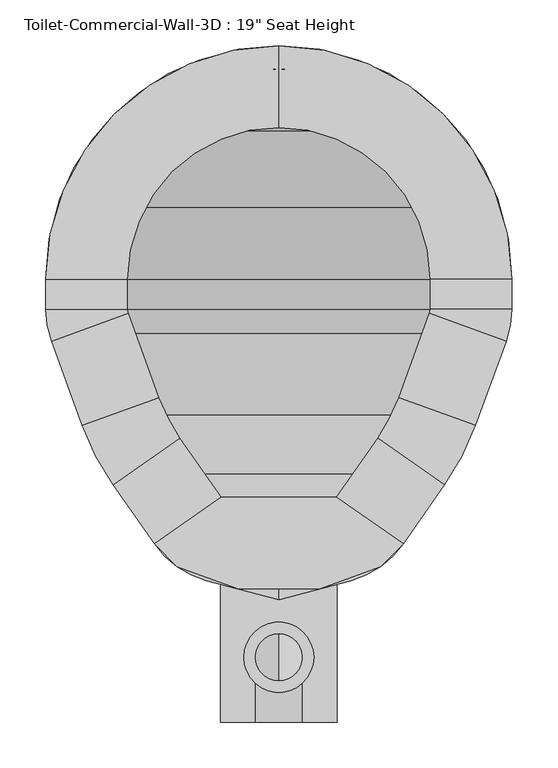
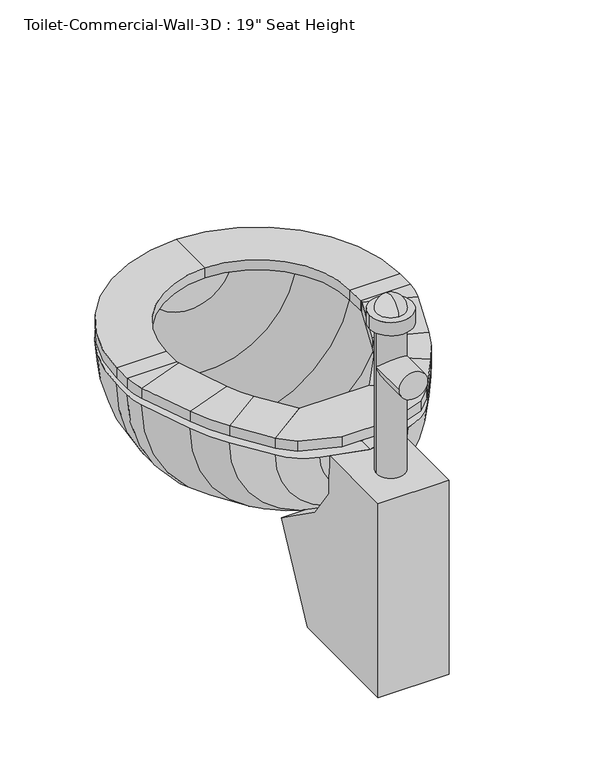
"""IFC4 building model written with IfcOpenShell, lengths in millimetres: flow terminal geometry."""

from ifc_helpers import new_model, si_unit, point, frame, frame_2d, origin, place, context, project, spatial, polyline, circle_curve, ellipse_curve, trimmed, segment, composite_curve, outline, extrude, source, transform, mapped, element, save
from ifc_brep_helpers import plane_surface, cylinder_surface, revolved_surface, advanced_brep


def flow_terminal_070f706b(model_context):
    return source(origin(), model_context, "Body", "SolidModel", [
        extrude(outline(polyline([(467.7541169, 397.4347495), (540.5767337, 346.4438043), (515.6262519, 321.4933226), (449.563909, 297.4485961), (360.2423986, 297.4485961), (294.1800557, 321.4933226), (269.229574, 346.4438043), (342.0521907, 397.4347495), (467.7541169, 397.4347495)])), frame((0.0, 0.0, 457.2), z_axis=(0.0, 0.0, 1.0), x_axis=(1.0, 0.0, 0.0)), (0.0, 0.0, 1.0), 19.05),
        advanced_brep(
        [(467.7541169, 397.4347495, 457.2), (540.5767337, 346.4438043, 457.2), (540.5767337, 346.4438043, 476.25), (467.7541169, 397.4347495, 476.25), (512.8583992, 461.8503403, 457.2), (585.6810159, 410.8593951, 457.2), (585.6810159, 410.8593951, 476.25), (512.8583992, 461.8503403, 476.25), (619.360053, 475.5562234, 457.2), (535.821379, 505.9618141, 457.2), (619.360053, 475.5562234, 476.25), (535.821379, 505.9618141, 476.25), (569.2372501, 597.7711654, 457.2), (652.7759241, 567.3655747, 457.2), (652.7759241, 567.3655747, 476.25), (569.2372501, 597.7711654, 476.25), (658.9031538, 602.1148212, 457.2), (570.0031538, 602.1148212, 457.2), (658.9031538, 602.1148212, 476.25), (570.0031538, 602.1148212, 476.25), (570.0031538, 635.0, 457.2), (658.9031538, 635.0, 457.2), (658.9031538, 635.0, 476.25), (570.0031538, 635.0, 476.25), (404.9031538, 889.0, 457.2), (404.9031538, 800.1, 457.2), (404.9031538, 889.0, 476.25), (404.9031538, 800.1, 476.25), (150.9031538, 635.0, 457.2), (239.8031538, 635.0, 457.2), (150.9031538, 635.0, 476.25), (239.8031538, 635.0, 476.25), (239.8031538, 602.1148212, 457.2), (150.9031538, 602.1148212, 457.2), (150.9031538, 602.1148212, 476.25), (239.8031538, 602.1148212, 476.25), (157.0303835, 567.3655747, 457.2), (240.5690575, 597.7711654, 457.2), (157.0303835, 567.3655747, 476.25), (240.5690575, 597.7711654, 476.25), (273.9849286, 505.9618141, 457.2), (190.4462546, 475.5562234, 457.2), (190.4462546, 475.5562234, 476.25), (273.9849286, 505.9618141, 476.25), (224.1252917, 410.8593951, 457.2), (296.9479084, 461.8503403, 457.2), (224.1252917, 410.8593951, 476.25), (296.9479084, 461.8503403, 476.25), (342.0521907, 397.4347495, 457.2), (342.0521907, 397.4347495, 476.25), (269.229574, 346.4438043, 476.25), (269.229574, 346.4438043, 457.2)],
        [
            (0, 1),
            (1, 2),
            (2, 3),
            (3, 0),
            (0, 4),
            (4, 5),
            (5, 1),
            (5, 6),
            (6, 2),
            (6, 7),
            (7, 3),
            (7, 4),
            (8, 5, circle_curve(frame((356.8099347, 571.1166514, 457.2), z_axis=(0.0, 0.0, -1.0), x_axis=(0.81915204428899, -0.5735764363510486, 0.0)), 279.4)),
            (4, 9, circle_curve(frame((356.8099347, 571.1166514, 457.2), z_axis=(0.0, 0.0, 1.0), x_axis=(0.81915204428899, -0.5735764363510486, 0.0)), 190.5)),
            (9, 8),
            (10, 6, circle_curve(frame((356.8099347, 571.1166514, 476.25), z_axis=(0.0, 0.0, -1.0), x_axis=(0.81915204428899, -0.5735764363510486, 0.0)), 279.4)),
            (8, 10),
            (11, 7, circle_curve(frame((356.8099347, 571.1166514, 476.25), z_axis=(0.0, 0.0, -1.0), x_axis=(0.81915204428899, -0.5735764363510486, 0.0)), 190.5)),
            (10, 11),
            (11, 9),
            (9, 12),
            (12, 13),
            (13, 8),
            (13, 14),
            (14, 10),
            (14, 15),
            (15, 11),
            (15, 12),
            (16, 13, circle_curve(frame((557.3031538, 602.1148212, 457.2), z_axis=(0.0, 0.0, -1.0), x_axis=(0.9396926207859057, -0.3420201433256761, 0.0)), 101.6)),
            (12, 17, circle_curve(frame((557.3031538, 602.1148212, 457.2), z_axis=(0.0, 0.0, 1.0), x_axis=(0.9396926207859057, -0.3420201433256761, 0.0)), 12.7)),
            (17, 16),
            (18, 14, circle_curve(frame((557.3031538, 602.1148212, 476.25), z_axis=(0.0, 0.0, -1.0), x_axis=(0.9396926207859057, -0.3420201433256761, 0.0)), 101.6)),
            (16, 18),
            (19, 15, circle_curve(frame((557.3031538, 602.1148212, 476.25), z_axis=(0.0, 0.0, -1.0), x_axis=(0.9396926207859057, -0.3420201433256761, 0.0)), 12.7)),
            (18, 19),
            (19, 17),
            (17, 20),
            (20, 21),
            (21, 16),
            (21, 22),
            (22, 18),
            (22, 23),
            (23, 19),
            (23, 20),
            (24, 21, circle_curve(frame((404.9031538, 635.0, 457.2), z_axis=(0.0, 0.0, -1.0), x_axis=(1.0, 0.0, 0.0)), 254.0)),
            (20, 25, circle_curve(frame((404.9031538, 635.0, 457.2), z_axis=(0.0, 0.0, 1.0), x_axis=(1.0, 0.0, 0.0)), 165.1)),
            (25, 24),
            (26, 22, circle_curve(frame((404.9031538, 635.0, 476.25), z_axis=(0.0, 0.0, -1.0), x_axis=(1.0, 0.0, 0.0)), 254.0)),
            (24, 26),
            (27, 23, circle_curve(frame((404.9031538, 635.0, 476.25), z_axis=(0.0, 0.0, -1.0), x_axis=(1.0, 0.0, 0.0)), 165.1)),
            (26, 27),
            (27, 25),
            (28, 24, circle_curve(frame((404.9031538, 635.0, 457.2), z_axis=(0.0, 0.0, -1.0), x_axis=(0.0, 1.0, 0.0)), 254.0)),
            (25, 29, circle_curve(frame((404.9031538, 635.0, 457.2), z_axis=(0.0, 0.0, 1.0), x_axis=(0.0, 1.0, 0.0)), 165.1)),
            (29, 28),
            (30, 26, circle_curve(frame((404.9031538, 635.0, 476.25), z_axis=(0.0, 0.0, -1.0), x_axis=(0.0, 1.0, 0.0)), 254.0)),
            (28, 30),
            (31, 27, circle_curve(frame((404.9031538, 635.0, 476.25), z_axis=(0.0, 0.0, -1.0), x_axis=(0.0, 1.0, 0.0)), 165.1)),
            (30, 31),
            (31, 29),
            (29, 32),
            (32, 33),
            (33, 28),
            (33, 34),
            (34, 30),
            (34, 35),
            (35, 31),
            (35, 32),
            (36, 33, circle_curve(frame((252.5031538, 602.1148212, 457.2), z_axis=(0.0, 0.0, -1.0), x_axis=(-1.0, 0.0, 0.0)), 101.6)),
            (32, 37, circle_curve(frame((252.5031538, 602.1148212, 457.2), z_axis=(0.0, 0.0, 1.0), x_axis=(-1.0, 0.0, 0.0)), 12.7)),
            (37, 36),
            (38, 34, circle_curve(frame((252.5031538, 602.1148212, 476.25), z_axis=(0.0, 0.0, -1.0), x_axis=(-1.0, 0.0, 0.0)), 101.6)),
            (36, 38),
            (39, 35, circle_curve(frame((252.5031538, 602.1148212, 476.25), z_axis=(0.0, 0.0, -1.0), x_axis=(-1.0, 0.0, 0.0)), 12.7)),
            (38, 39),
            (39, 37),
            (37, 40),
            (40, 41),
            (41, 36),
            (41, 42),
            (42, 38),
            (42, 43),
            (43, 39),
            (43, 40),
            (44, 41, circle_curve(frame((452.9963729, 571.1166514, 457.2), z_axis=(0.0, 0.0, -1.0), x_axis=(-0.939692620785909, -0.3420201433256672, 0.0)), 279.4)),
            (40, 45, circle_curve(frame((452.9963729, 571.1166514, 457.2), z_axis=(0.0, 0.0, 1.0), x_axis=(-0.939692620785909, -0.3420201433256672, 0.0)), 190.5)),
            (45, 44),
            (46, 42, circle_curve(frame((452.9963729, 571.1166514, 476.25), z_axis=(0.0, 0.0, -1.0), x_axis=(-0.939692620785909, -0.3420201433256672, 0.0)), 279.4)),
            (44, 46),
            (47, 43, circle_curve(frame((452.9963729, 571.1166514, 476.25), z_axis=(0.0, 0.0, -1.0), x_axis=(-0.939692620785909, -0.3420201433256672, 0.0)), 190.5)),
            (46, 47),
            (47, 45),
            (48, 49),
            (49, 50),
            (50, 51),
            (51, 48),
            (45, 48),
            (51, 44),
            (50, 46),
            (49, 47),
        ],
        [
            plane_surface(frame((540.5767337, 346.4438043, 538.8995365), z_axis=(-0.5735764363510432, -0.8191520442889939, 0.0), x_axis=(0.8191520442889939, -0.5735764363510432, 0.0))),
            plane_surface(frame((467.7541169, 397.4347495, 457.2), z_axis=(0.0, 0.0, -1.0), x_axis=(0.5735764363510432, 0.8191520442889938, 0.0))),
            plane_surface(frame((540.5767337, 346.4438043, 457.2), z_axis=(0.8191520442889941, -0.5735764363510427, 0.0), x_axis=(0.5735764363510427, 0.8191520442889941, 0.0))),
            plane_surface(frame((540.5767337, 346.4438043, 476.25), z_axis=(0.0, 0.0, 1.0), x_axis=(0.5735764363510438, 0.8191520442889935, 0.0))),
            plane_surface(frame((467.7541169, 397.4347495, 476.25), z_axis=(-0.8191520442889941, 0.5735764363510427, 0.0), x_axis=(0.5735764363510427, 0.8191520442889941, 0.0))),
            plane_surface(frame((356.8099347, 571.1166514, 457.2), z_axis=(0.0, 0.0, -1.0), x_axis=(0.81915204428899, -0.5735764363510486, 0.0))),
            cylinder_surface(frame((356.8099347, 571.1166514, 444.5), z_axis=(0.0, 0.0, 1.0), x_axis=(0.81915204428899, -0.5735764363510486, 0.0)), 279.4),
            plane_surface(frame((356.8099347, 571.1166514, 476.25), z_axis=(0.0, 0.0, 1.0), x_axis=(0.81915204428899, -0.5735764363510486, 0.0))),
            revolved_surface(polyline([(512.8583991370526, 461.8503402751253, 476.25), (512.8583991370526, 461.8503402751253, 457.2)]), (356.8099347, 571.1166514, 444.5), (0.0, 0.0, 1.0)),
            plane_surface(frame((535.821379, 505.9618141, 457.2), z_axis=(0.0, 0.0, -1.0000000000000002), x_axis=(0.3420201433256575, 0.9396926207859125, 0.0))),
            plane_surface(frame((619.360053, 475.5562234, 457.2), z_axis=(0.9396926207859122, -0.34202014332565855, 0.0), x_axis=(0.34202014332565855, 0.9396926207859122, 0.0))),
            plane_surface(frame((619.360053, 475.5562234, 476.25), z_axis=(0.0, 0.0, 1.0000000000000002), x_axis=(0.34202014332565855, 0.9396926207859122, 0.0))),
            plane_surface(frame((535.821379, 505.9618141, 476.25), z_axis=(-0.9396926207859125, 0.3420201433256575, 0.0), x_axis=(0.3420201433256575, 0.9396926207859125, 0.0))),
            plane_surface(frame((557.3031538, 602.1148212, 457.2), z_axis=(0.0, 0.0, -1.0000000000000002), x_axis=(0.9396926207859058, -0.34202014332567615, 0.0))),
            cylinder_surface(frame((557.3031538, 602.1148212, 444.5), z_axis=(0.0, 0.0, 1.0), x_axis=(0.9396926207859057, -0.3420201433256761, 0.0)), 101.6),
            plane_surface(frame((557.3031538, 602.1148212, 476.25), z_axis=(0.0, 0.0, 1.0000000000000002), x_axis=(0.9396926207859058, -0.34202014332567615, 0.0))),
            revolved_surface(polyline([(569.237250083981, 597.7711653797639, 476.25), (569.237250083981, 597.7711653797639, 457.2)]), (557.3031538, 602.1148212, 444.5), (0.0, 0.0, 1.0)),
            plane_surface(frame((570.0031538, 602.1148212, 457.2), z_axis=(0.0, 0.0, -1.0), x_axis=(0.0, 1.0, 0.0))),
            plane_surface(frame((658.9031538, 602.1148212, 457.2), z_axis=(1.0, 0.0, 0.0), x_axis=(0.0, 1.0, 0.0))),
            plane_surface(frame((658.9031538, 602.1148212, 476.25), z_axis=(0.0, 0.0, 1.0), x_axis=(0.0, 1.0, 0.0))),
            plane_surface(frame((570.0031538, 602.1148212, 476.25), z_axis=(-1.0, 0.0, 0.0), x_axis=(0.0, 1.0, 0.0))),
            plane_surface(frame((404.9031538, 635.0, 457.2), z_axis=(0.0, 0.0, -1.0), x_axis=(1.0, 0.0, 0.0))),
            cylinder_surface(frame((404.9031538, 635.0, 444.5), z_axis=(0.0, 0.0, 1.0), x_axis=(1.0, 0.0, 0.0)), 254.0),
            plane_surface(frame((404.9031538, 635.0, 476.25), z_axis=(0.0, 0.0, 1.0), x_axis=(1.0, 0.0, 0.0))),
            revolved_surface(polyline([(570.0031538, 635.0, 476.25), (570.0031538, 635.0, 457.2)]), (404.9031538, 635.0, 444.5), (0.0, 0.0, 1.0)),
            plane_surface(frame((404.9031538, 635.0, 457.2), z_axis=(0.0, 0.0, -1.0), x_axis=(0.0, 1.0, 0.0))),
            cylinder_surface(frame((404.9031538, 635.0, 444.5), z_axis=(0.0, 0.0, 1.0), x_axis=(0.0, 1.0, 0.0)), 254.0),
            plane_surface(frame((404.9031538, 635.0, 476.25), z_axis=(0.0, 0.0, 1.0), x_axis=(0.0, 1.0, 0.0))),
            revolved_surface(polyline([(404.9031538, 800.1, 476.25), (404.9031538, 800.1, 457.2)]), (404.9031538, 635.0, 444.5), (0.0, 0.0, 1.0)),
            plane_surface(frame((239.8031538, 635.0, 457.2), z_axis=(0.0, 0.0, -1.0), x_axis=(0.0, -1.0, 0.0))),
            plane_surface(frame((150.9031538, 635.0, 457.2), z_axis=(-1.0, 0.0, 0.0), x_axis=(0.0, -1.0, 0.0))),
            plane_surface(frame((150.9031538, 635.0, 476.25), z_axis=(0.0, 0.0, 1.0), x_axis=(0.0, -1.0, 0.0))),
            plane_surface(frame((239.8031538, 635.0, 476.25), z_axis=(1.0, 0.0, 0.0), x_axis=(0.0, -1.0, 0.0))),
            plane_surface(frame((252.5031538, 602.1148212, 457.2), z_axis=(0.0, 0.0, -1.0), x_axis=(-1.0, 0.0, 0.0))),
            cylinder_surface(frame((252.5031538, 602.1148212, 444.5), z_axis=(0.0, 0.0, 1.0), x_axis=(-1.0, 0.0, 0.0)), 101.6),
            plane_surface(frame((252.5031538, 602.1148212, 476.25), z_axis=(0.0, 0.0, 1.0), x_axis=(-1.0, 0.0, 0.0))),
            revolved_surface(polyline([(239.80315380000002, 602.1148212, 476.25), (239.80315380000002, 602.1148212, 457.2)]), (252.5031538, 602.1148212, 444.5), (0.0, 0.0, 1.0)),
            plane_surface(frame((240.5690575, 597.7711654, 457.2), z_axis=(0.0, 0.0, -1.0000000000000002), x_axis=(0.3420201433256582, -0.9396926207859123, 0.0))),
            plane_surface(frame((157.0303835, 567.3655747, 457.2), z_axis=(-0.9396926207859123, -0.3420201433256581, 0.0), x_axis=(0.3420201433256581, -0.9396926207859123, 0.0))),
            plane_surface(frame((157.0303835, 567.3655747, 476.25), z_axis=(0.0, 0.0, 1.0000000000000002), x_axis=(0.3420201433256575, -0.9396926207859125, 0.0))),
            plane_surface(frame((240.5690575, 597.7711654, 476.25), z_axis=(0.9396926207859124, 0.3420201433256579, 0.0), x_axis=(0.3420201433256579, -0.9396926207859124, 0.0))),
            plane_surface(frame((452.9963729, 571.1166514, 457.2), z_axis=(0.0, 0.0, -1.0), x_axis=(-0.939692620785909, -0.3420201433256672, 0.0))),
            cylinder_surface(frame((452.9963729, 571.1166514, 444.5), z_axis=(0.0, 0.0, 1.0), x_axis=(-0.939692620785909, -0.3420201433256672, 0.0)), 279.4),
            plane_surface(frame((452.9963729, 571.1166514, 476.25), z_axis=(0.0, 0.0, 1.0), x_axis=(-0.939692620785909, -0.3420201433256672, 0.0))),
            revolved_surface(polyline([(273.98492864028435, 505.96181409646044, 476.25), (273.98492864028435, 505.96181409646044, 457.2)]), (452.9963729, 571.1166514, 444.5), (0.0, 0.0, 1.0)),
            plane_surface(frame((269.229574, 346.4438043, 350.1004635), z_axis=(0.5735764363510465, -0.8191520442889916, 0.0), x_axis=(0.8191520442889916, 0.5735764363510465, 0.0))),
            plane_surface(frame((296.9479084, 461.8503403, 457.2), z_axis=(0.0, 0.0, -1.0), x_axis=(0.5735764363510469, -0.8191520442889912, 0.0))),
            plane_surface(frame((224.1252917, 410.8593951, 457.2), z_axis=(-0.8191520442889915, -0.5735764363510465, 0.0), x_axis=(0.5735764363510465, -0.8191520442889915, 0.0))),
            plane_surface(frame((224.1252917, 410.8593951, 476.25), z_axis=(0.0, 0.0, 1.0000000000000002), x_axis=(0.5735764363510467, -0.8191520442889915, 0.0))),
            plane_surface(frame((296.9479084, 461.8503403, 476.25), z_axis=(0.8191520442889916, 0.5735764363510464, 0.0), x_axis=(0.5735764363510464, -0.8191520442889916, 0.0))),
        ],
        [
            (0, [[1, 2, 3, 4]]),
            (1, [[-1, 5, 6, 7]]),
            (2, [[-2, -7, 8, 9]]),
            (3, [[-3, -9, 10, 11]]),
            (4, [[-4, -11, 12, -5]]),
            (5, [[13, -6, 14, 15]]),
            (6, [[16, -8, -13, 17]]),
            (7, [[18, -10, -16, 19]]),
            (8, [[-14, -12, -18, 20]]),
            (9, [[-15, 21, 22, 23]]),
            (10, [[-17, -23, 24, 25]]),
            (11, [[-19, -25, 26, 27]]),
            (12, [[-20, -27, 28, -21]]),
            (13, [[29, -22, 30, 31]]),
            (14, [[32, -24, -29, 33]]),
            (15, [[34, -26, -32, 35]]),
            (16, [[-30, -28, -34, 36]]),
            (17, [[-31, 37, 38, 39]]),
            (18, [[-33, -39, 40, 41]]),
            (19, [[-35, -41, 42, 43]]),
            (20, [[-36, -43, 44, -37]]),
            (21, [[45, -38, 46, 47]]),
            (22, [[48, -40, -45, 49]]),
            (23, [[50, -42, -48, 51]]),
            (24, [[-46, -44, -50, 52]]),
            (25, [[53, -47, 54, 55]]),
            (26, [[56, -49, -53, 57]]),
            (27, [[58, -51, -56, 59]]),
            (28, [[-54, -52, -58, 60]]),
            (29, [[-55, 61, 62, 63]]),
            (30, [[-57, -63, 64, 65]]),
            (31, [[-59, -65, 66, 67]]),
            (32, [[-60, -67, 68, -61]]),
            (33, [[69, -62, 70, 71]]),
            (34, [[72, -64, -69, 73]]),
            (35, [[74, -66, -72, 75]]),
            (36, [[-70, -68, -74, 76]]),
            (37, [[-71, 77, 78, 79]]),
            (38, [[-73, -79, 80, 81]]),
            (39, [[-75, -81, 82, 83]]),
            (40, [[-76, -83, 84, -77]]),
            (41, [[85, -78, 86, 87]]),
            (42, [[88, -80, -85, 89]]),
            (43, [[90, -82, -88, 91]]),
            (44, [[-86, -84, -90, 92]]),
            (45, [[93, 94, 95, 96]]),
            (46, [[-87, 97, -96, 98]]),
            (47, [[-89, -98, -95, 99]]),
            (48, [[-91, -99, -94, 100]]),
            (49, [[-92, -100, -93, -97]]),
        ],
    ),
        advanced_brep(
        [(491.7762702, 873.6819257, 444.5), (404.9031538, 889.0, 444.5), (404.9031538, 863.6, 444.5), (483.0889586, 849.8137331, 444.5), (566.547764, 796.6446102, 444.5), (619.7168869, 713.1858048, 444.5), (633.5031538, 635.0, 444.5), (633.5031538, 602.1148212, 444.5), (628.9077315, 576.0528863, 444.5), (596.6355667, 487.3858422, 444.5), (562.9565296, 422.6890139, 444.5), (525.0728964, 368.5855786, 444.5), (468.1430637, 328.7228806, 444.5), (404.9031538, 311.7777978, 444.5), (404.9031538, 285.4817829, 444.5), (483.6469009, 306.5811063, 444.5), (540.5767337, 346.4438043, 444.5), (585.6810159, 410.8593951, 444.5), (619.360053, 475.5562234, 444.5), (652.7759241, 567.3655747, 444.5), (658.9031538, 602.1148212, 444.5), (658.9031538, 635.0, 444.5), (643.5850795, 721.8731164, 444.5), (584.5082762, 814.6051224, 444.5), (318.0300374, 873.6819257, 444.5), (225.2980314, 814.6051224, 444.5), (166.2212281, 721.8731164, 444.5), (150.9031538, 635.0, 444.5), (150.9031538, 602.1148212, 444.5), (157.0303835, 567.3655747, 444.5), (190.4462546, 475.5562234, 444.5), (224.1252917, 410.8593951, 444.5), (269.229574, 346.4438043, 444.5), (326.1594067, 306.5811063, 444.5), (341.663244, 328.7228806, 444.5), (284.7334112, 368.5855786, 444.5), (246.849778, 422.6890139, 444.5), (213.1707409, 487.3858422, 444.5), (180.8985761, 576.0528863, 444.5), (176.3031538, 602.1148212, 444.5), (176.3031538, 635.0, 444.5), (190.0894207, 713.1858048, 444.5), (243.2585436, 796.6446102, 444.5), (326.7173491, 849.8137331, 444.5)],
        [
            (0, 1, circle_curve(frame((404.9031538, 635.0, 444.5), z_axis=(0.0, 0.0, 1.0), x_axis=(1.0, 0.0, 0.0)), 254.0)),
            (1, 2),
            (2, 3, circle_curve(frame((404.9031538, 635.0, 444.5), z_axis=(0.0, 0.0, -1.0), x_axis=(1.0, 0.0, 0.0)), 228.6)),
            (3, 4, circle_curve(frame((404.9031538, 635.0, 444.5), z_axis=(0.0, 0.0, -1.0), x_axis=(1.0, 0.0, 0.0)), 228.6)),
            (4, 5, circle_curve(frame((404.9031538, 635.0, 444.5), z_axis=(0.0, 0.0, -1.0), x_axis=(1.0, 0.0, 0.0)), 228.6)),
            (5, 6, circle_curve(frame((404.9031538, 635.0, 444.5), z_axis=(0.0, 0.0, -1.0), x_axis=(1.0, 0.0, 0.0)), 228.6)),
            (6, 7),
            (7, 8, circle_curve(frame((557.3031538, 602.1148212, 444.5), z_axis=(0.0, 0.0, -1.0), x_axis=(1.0, 0.0, 0.0)), 76.2)),
            (8, 9),
            (9, 10, circle_curve(frame((334.0854485, 582.9462703, 444.5), z_axis=(0.0, 0.0, -1.0), x_axis=(1.0, 0.0, 0.0)), 279.4)),
            (10, 11),
            (11, 12, circle_curve(frame((441.8470487, 426.8609446, 444.5), z_axis=(0.0, 0.0, -1.0), x_axis=(1.0, 0.0, 0.0)), 101.6)),
            (12, 13),
            (13, 14),
            (14, 15),
            (15, 16, circle_curve(frame((457.350886, 404.7191703, 444.5), z_axis=(0.0, 0.0, 1.0), x_axis=(1.0, 0.0, 0.0)), 101.6)),
            (16, 17),
            (17, 18, circle_curve(frame((356.8099347, 571.1166514, 444.5), z_axis=(0.0, 0.0, 1.0), x_axis=(1.0, 0.0, 0.0)), 279.4)),
            (18, 19),
            (19, 20, circle_curve(frame((557.3031538, 602.1148212, 444.5), z_axis=(0.0, 0.0, 1.0), x_axis=(1.0, 0.0, 0.0)), 101.6)),
            (20, 21),
            (21, 22, circle_curve(frame((404.9031538, 635.0, 444.5), z_axis=(0.0, 0.0, 1.0), x_axis=(1.0, 0.0, 0.0)), 254.0)),
            (22, 23, circle_curve(frame((404.9031538, 635.0, 444.5), z_axis=(0.0, 0.0, 1.0), x_axis=(1.0, 0.0, 0.0)), 254.0)),
            (23, 0, circle_curve(frame((404.9031538, 635.0, 444.5), z_axis=(0.0, 0.0, 1.0), x_axis=(1.0, 0.0, 0.0)), 254.0)),
            (24, 25, circle_curve(frame((404.9031538, 635.0, 444.5), z_axis=(0.0, 0.0, 1.0), x_axis=(-1.0, 0.0, 0.0)), 254.0)),
            (25, 26, circle_curve(frame((404.9031538, 635.0, 444.5), z_axis=(0.0, 0.0, 1.0), x_axis=(-1.0, 0.0, 0.0)), 254.0)),
            (26, 27, circle_curve(frame((404.9031538, 635.0, 444.5), z_axis=(0.0, 0.0, 1.0), x_axis=(-1.0, 0.0, 0.0)), 254.0)),
            (27, 28),
            (28, 29, circle_curve(frame((252.5031538, 602.1148212, 444.5), z_axis=(0.0, 0.0, 1.0), x_axis=(-1.0, 0.0, 0.0)), 101.6)),
            (29, 30),
            (30, 31, circle_curve(frame((452.9963729, 571.1166514, 444.5), z_axis=(0.0, 0.0, 1.0), x_axis=(-1.0, 0.0, 0.0)), 279.4)),
            (31, 32),
            (32, 33, circle_curve(frame((352.4554217, 404.7191703, 444.5), z_axis=(0.0, 0.0, 1.0), x_axis=(-1.0, 0.0, 0.0)), 101.6)),
            (33, 14),
            (13, 34),
            (34, 35, circle_curve(frame((367.9592589, 426.8609446, 444.5), z_axis=(0.0, 0.0, -1.0), x_axis=(-1.0, 0.0, 0.0)), 101.6)),
            (35, 36),
            (36, 37, circle_curve(frame((475.7208592, 582.9462703, 444.5), z_axis=(0.0, 0.0, -1.0), x_axis=(-1.0, 0.0, 0.0)), 279.4)),
            (37, 38),
            (38, 39, circle_curve(frame((252.5031538, 602.1148212, 444.5), z_axis=(0.0, 0.0, -1.0), x_axis=(-1.0, 0.0, 0.0)), 76.2)),
            (39, 40),
            (40, 41, circle_curve(frame((404.9031538, 635.0, 444.5), z_axis=(0.0, 0.0, -1.0), x_axis=(-1.0, 0.0, 0.0)), 228.6)),
            (41, 42, circle_curve(frame((404.9031538, 635.0, 444.5), z_axis=(0.0, 0.0, -1.0), x_axis=(-1.0, 0.0, 0.0)), 228.6)),
            (42, 43, circle_curve(frame((404.9031538, 635.0, 444.5), z_axis=(0.0, 0.0, -1.0), x_axis=(-1.0, 0.0, 0.0)), 228.6)),
            (43, 2, circle_curve(frame((404.9031538, 635.0, 444.5), z_axis=(0.0, 0.0, -1.0), x_axis=(-1.0, 0.0, 0.0)), 228.6)),
            (1, 24, circle_curve(frame((404.9031538, 635.0, 444.5), z_axis=(0.0, 0.0, 1.0), x_axis=(-1.0, 0.0, 0.0)), 254.0)),
            (0, 24, circle_curve(frame((404.9031538, 873.6819257, 444.5), z_axis=(0.0, 1.0, 0.0), x_axis=(1.0, 0.0, 0.0)), 86.8731164)),
            (43, 3, circle_curve(frame((404.9031538, 849.8137331, 444.5), z_axis=(0.0, -1.0, 0.0), x_axis=(1.0, 0.0, 0.0)), 78.1858048)),
            (42, 4, circle_curve(frame((404.9031538, 796.6446102, 444.5), z_axis=(0.0, -1.0, 0.0), x_axis=(1.0, 0.0, 0.0)), 161.6446102)),
            (41, 5, circle_curve(frame((404.9031538, 713.1858048, 444.5), z_axis=(0.0, -1.0, 0.0), x_axis=(1.0, 0.0, 0.0)), 214.8137331)),
            (40, 6, circle_curve(frame((404.9031538, 635.0, 444.5), z_axis=(0.0, -1.0, 0.0), x_axis=(1.0, 0.0, 0.0)), 228.6)),
            (39, 7, circle_curve(frame((404.9031538, 602.1148212, 444.5), z_axis=(0.0, -1.0, 0.0), x_axis=(1.0, 0.0, 0.0)), 228.6)),
            (38, 8, circle_curve(frame((404.9031538, 576.0528863, 444.5), z_axis=(0.0, -1.0, 0.0), x_axis=(1.0, 0.0, 0.0)), 224.0045777)),
            (37, 9, circle_curve(frame((404.9031538, 487.3858422, 444.5), z_axis=(0.0, -1.0, 0.0), x_axis=(1.0, 0.0, 0.0)), 191.7324129)),
            (36, 10, circle_curve(frame((404.9031538, 422.6890139, 444.5), z_axis=(0.0, -1.0, 0.0), x_axis=(1.0, 0.0, 0.0)), 158.0533758)),
            (35, 11, circle_curve(frame((404.9031538, 368.5855786, 444.5), z_axis=(0.0, -1.0, 0.0), x_axis=(1.0, 0.0, 0.0)), 120.1697426)),
            (34, 12, circle_curve(frame((404.9031538, 328.7228806, 444.5), z_axis=(0.0, -1.0, 0.0), x_axis=(1.0, 0.0, 0.0)), 63.2399099)),
            (33, 15, circle_curve(frame((404.9031538, 306.5811063, 444.5), z_axis=(0.0, -1.0, 0.0), x_axis=(1.0, 0.0, 0.0)), 78.7437471)),
            (32, 16, circle_curve(frame((404.9031538, 346.4438043, 444.5), z_axis=(0.0, -1.0, 0.0), x_axis=(1.0, 0.0, 0.0)), 135.6735798)),
            (31, 17, circle_curve(frame((404.9031538, 410.8593951, 444.5), z_axis=(0.0, -1.0, 0.0), x_axis=(1.0, 0.0, 0.0)), 180.7778621)),
            (30, 18, circle_curve(frame((404.9031538, 475.5562234, 444.5), z_axis=(0.0, -1.0, 0.0), x_axis=(1.0, 0.0, 0.0)), 214.4568992)),
            (29, 19, circle_curve(frame((404.9031538, 567.3655747, 444.5), z_axis=(0.0, -1.0, 0.0), x_axis=(1.0, 0.0, 0.0)), 247.8727703)),
            (28, 20, circle_curve(frame((404.9031538, 602.1148212, 444.5), z_axis=(0.0, -1.0, 0.0), x_axis=(1.0, 0.0, 0.0)), 254.0)),
            (27, 21, circle_curve(frame((404.9031538, 635.0, 444.5), z_axis=(0.0, -1.0, 0.0), x_axis=(1.0, 0.0, 0.0)), 254.0)),
            (26, 22, circle_curve(frame((404.9031538, 721.8731164, 444.5), z_axis=(0.0, -1.0, 0.0), x_axis=(1.0, 0.0, 0.0)), 238.6819257)),
            (25, 23, circle_curve(frame((404.9031538, 814.6051224, 444.5), z_axis=(0.0, -1.0, 0.0), x_axis=(1.0, 0.0, 0.0)), 179.6051224)),
        ],
        [
            plane_surface(frame((404.9031538, 994.2102448, 444.5), z_axis=(0.0, 0.0, 1.0), x_axis=(1.0, 0.0, 0.0))),
            plane_surface(frame((404.9031538, 994.2102448, 444.5), z_axis=(0.0, 0.0, 1.0), x_axis=(-1.0, 0.0, 0.0))),
            revolved_surface(trimmed(ellipse_curve(frame((404.9031538, 635.0, 444.5), z_axis=(0.0, 0.0, 1.0), x_axis=(1.0, 0.0, 0.0)), 254.0, 254.0), [point((491.7762702, 873.6819257, 444.5))], [point((404.9031538, 889.0, 444.5))], True, "CARTESIAN"), (404.9031538, 994.2102448, 444.5), (0.0, 1.0, 0.0)),
            revolved_surface(trimmed(ellipse_curve(frame((404.9031538, 635.0, 444.5), z_axis=(0.0, 0.0, -1.0), x_axis=(1.0, 0.0, 0.0)), 228.6, 228.6), [point((404.9031538, 863.6, 444.5))], [point((483.0889586, 849.8137331, 444.5))], True, "CARTESIAN"), (404.9031538, 994.2102448, 444.5), (0.0, 1.0, 0.0)),
            revolved_surface(trimmed(ellipse_curve(frame((404.9031538, 635.0, 444.5), z_axis=(0.0, 0.0, -1.0), x_axis=(1.0, 0.0, 0.0)), 228.6, 228.6), [point((483.0889586, 849.8137331, 444.5))], [point((566.547764, 796.6446102, 444.5))], True, "CARTESIAN"), (404.9031538, 994.2102448, 444.5), (0.0, 1.0, 0.0)),
            revolved_surface(trimmed(ellipse_curve(frame((404.9031538, 635.0, 444.5), z_axis=(0.0, 0.0, -1.0), x_axis=(1.0, 0.0, 0.0)), 228.6, 228.6), [point((566.547764, 796.6446102, 444.5))], [point((619.7168869, 713.1858048, 444.5))], True, "CARTESIAN"), (404.9031538, 994.2102448, 444.5), (0.0, 1.0, 0.0)),
            revolved_surface(trimmed(ellipse_curve(frame((404.9031538, 635.0, 444.5), z_axis=(0.0, 0.0, -1.0), x_axis=(1.0, 0.0, 0.0)), 228.6, 228.6), [point((619.7168869, 713.1858048, 444.5))], [point((633.5031538, 635.0, 444.5))], True, "CARTESIAN"), (404.9031538, 994.2102448, 444.5), (0.0, 1.0, 0.0)),
            revolved_surface(polyline([(633.5031538, 635.0, 444.5), (633.5031538, 602.1148212, 444.5)]), (404.9031538, 994.2102448, 444.5), (0.0, 1.0, 0.0)),
            revolved_surface(trimmed(ellipse_curve(frame((557.3031538, 602.1148212, 444.5), z_axis=(0.0, 0.0, -1.0), x_axis=(1.0, 0.0, 0.0)), 76.2, 76.2), [point((633.5031538, 602.1148212, 444.5))], [point((628.9077315, 576.0528863, 444.5))], True, "CARTESIAN"), (404.9031538, 994.2102448, 444.5), (0.0, 1.0, 0.0)),
            revolved_surface(polyline([(628.9077315, 576.0528863, 444.5), (596.6355667, 487.3858422, 444.5)]), (404.9031538, 994.2102448, 444.5), (0.0, 1.0, 0.0)),
            revolved_surface(trimmed(ellipse_curve(frame((334.0854485, 582.9462703, 444.5), z_axis=(0.0, 0.0, -1.0), x_axis=(1.0, 0.0, 0.0)), 279.4, 279.4), [point((596.6355667, 487.3858422, 444.5))], [point((562.9565296, 422.6890139, 444.5))], True, "CARTESIAN"), (404.9031538, 994.2102448, 444.5), (0.0, 1.0, 0.0)),
            revolved_surface(polyline([(562.9565296, 422.6890139, 444.5), (525.0728964, 368.5855786, 444.5)]), (404.9031538, 994.2102448, 444.5), (0.0, 1.0, 0.0)),
            revolved_surface(trimmed(ellipse_curve(frame((441.8470487, 426.8609446, 444.5), z_axis=(0.0, 0.0, -1.0), x_axis=(1.0, 0.0, 0.0)), 101.6, 101.6), [point((525.0728964, 368.5855786, 444.5))], [point((468.1430637, 328.7228806, 444.5))], True, "CARTESIAN"), (404.9031538, 994.2102448, 444.5), (0.0, 1.0, 0.0)),
            revolved_surface(polyline([(468.1430637, 328.7228806, 444.5), (404.9031538, 311.7777978, 444.5)]), (404.9031538, 994.2102448, 444.5), (0.0, 1.0, 0.0)),
            revolved_surface(polyline([(404.9031538, 285.4817829, 444.5), (483.6469009, 306.5811063, 444.5)]), (404.9031538, 994.2102448, 444.5), (0.0, 1.0, 0.0)),
            revolved_surface(trimmed(ellipse_curve(frame((457.350886, 404.7191703, 444.5), z_axis=(0.0, 0.0, 1.0), x_axis=(1.0, 0.0, 0.0)), 101.6, 101.6), [point((483.6469009, 306.5811063, 444.5))], [point((540.5767337, 346.4438043, 444.5))], True, "CARTESIAN"), (404.9031538, 994.2102448, 444.5), (0.0, 1.0, 0.0)),
            revolved_surface(polyline([(540.5767337, 346.4438043, 444.5), (585.6810159, 410.8593951, 444.5)]), (404.9031538, 994.2102448, 444.5), (0.0, 1.0, 0.0)),
            revolved_surface(trimmed(ellipse_curve(frame((356.8099347, 571.1166514, 444.5), z_axis=(0.0, 0.0, 1.0), x_axis=(1.0, 0.0, 0.0)), 279.4, 279.4), [point((585.6810159, 410.8593951, 444.5))], [point((619.360053, 475.5562234, 444.5))], True, "CARTESIAN"), (404.9031538, 994.2102448, 444.5), (0.0, 1.0, 0.0)),
            revolved_surface(polyline([(619.360053, 475.5562234, 444.5), (652.7759241, 567.3655747, 444.5)]), (404.9031538, 994.2102448, 444.5), (0.0, 1.0, 0.0)),
            revolved_surface(trimmed(ellipse_curve(frame((557.3031538, 602.1148212, 444.5), z_axis=(0.0, 0.0, 1.0), x_axis=(1.0, 0.0, 0.0)), 101.6, 101.6), [point((652.7759241, 567.3655747, 444.5))], [point((658.9031538, 602.1148212, 444.5))], True, "CARTESIAN"), (404.9031538, 994.2102448, 444.5), (0.0, 1.0, 0.0)),
            cylinder_surface(frame((404.9031538, 994.2102448, 444.5), z_axis=(0.0, 1.0, 0.0), x_axis=(1.0, 0.0, 0.0)), 254.0),
            revolved_surface(trimmed(ellipse_curve(frame((404.9031538, 635.0, 444.5), z_axis=(0.0, 0.0, 1.0), x_axis=(1.0, 0.0, 0.0)), 254.0, 254.0), [point((658.9031538, 635.0, 444.5))], [point((643.5850795, 721.8731164, 444.5))], True, "CARTESIAN"), (404.9031538, 994.2102448, 444.5), (0.0, 1.0, 0.0)),
            revolved_surface(trimmed(ellipse_curve(frame((404.9031538, 635.0, 444.5), z_axis=(0.0, 0.0, 1.0), x_axis=(1.0, 0.0, 0.0)), 254.0, 254.0), [point((643.5850795, 721.8731164, 444.5))], [point((584.5082762, 814.6051224, 444.5))], True, "CARTESIAN"), (404.9031538, 994.2102448, 444.5), (0.0, 1.0, 0.0)),
            revolved_surface(trimmed(ellipse_curve(frame((404.9031538, 635.0, 444.5), z_axis=(0.0, 0.0, 1.0), x_axis=(1.0, 0.0, 0.0)), 254.0, 254.0), [point((584.5082762, 814.6051224, 444.5))], [point((491.7762702, 873.6819257, 444.5))], True, "CARTESIAN"), (404.9031538, 994.2102448, 444.5), (0.0, 1.0, 0.0)),
        ],
        [
            (0, [[1, 2, 3, 4, 5, 6, 7, 8, 9, 10, 11, 12, 13, 14, 15, 16, 17, 18, 19, 20, 21, 22, 23, 24]]),
            (1, [[25, 26, 27, 28, 29, 30, 31, 32, 33, 34, -14, 35, 36, 37, 38, 39, 40, 41, 42, 43, 44, 45, -2, 46]]),
            (2, [[-1, 47, -46]]),
            (3, [[48, -3, -45]]),
            (4, [[49, -4, -48, -44]]),
            (5, [[50, -5, -49, -43]]),
            (6, [[51, -6, -50, -42]]),
            (7, [[52, -7, -51, -41]]),
            (8, [[53, -8, -52, -40]]),
            (9, [[54, -9, -53, -39]]),
            (10, [[55, -10, -54, -38]]),
            (11, [[56, -11, -55, -37]]),
            (12, [[57, -12, -56, -36]]),
            (13, [[-13, -57, -35]]),
            (14, [[58, -15, -34]]),
            (15, [[59, -16, -58, -33]]),
            (16, [[60, -17, -59, -32]]),
            (17, [[61, -18, -60, -31]]),
            (18, [[62, -19, -61, -30]]),
            (19, [[63, -20, -62, -29]]),
            (20, [[64, -21, -63, -28]]),
            (21, [[65, -22, -64, -27]]),
            (22, [[66, -23, -65, -26]]),
            (23, [[-47, -24, -66, -25]]),
        ],
    ),
        advanced_brep(
        [(404.9031538, 197.3176912, 749.3), (404.9031538, 248.5528563, 749.3), (404.9031538, 222.9352737, 774.9175826), (404.9031538, 222.9352737, 749.3)],
        [
            (0, 1, circle_curve(frame((404.9031538, 222.9352737, 749.3), z_axis=(0.0, 0.0, 1.0), x_axis=(0.0, 1.0, 0.0)), 25.6175826)),
            (1, 2, circle_curve(frame((404.9031538, 222.9352737, 749.3), z_axis=(1.0, 0.0, 0.0), x_axis=(0.0, -1.0, 0.0)), 25.6175826)),
            (2, 0, circle_curve(frame((404.9031538, 222.9352737, 749.3), z_axis=(1.0, 0.0, 0.0), x_axis=(0.0, 1.0, 0.0)), 25.6175826)),
            (1, 0, circle_curve(frame((404.9031538, 222.9352737, 749.3), z_axis=(0.0, 0.0, 1.0), x_axis=(0.0, 1.0, 0.0)), 25.6175826)),
            (3, 1),
            (0, 3),
        ],
        [
            revolved_surface(trimmed(ellipse_curve(frame((404.9031538, 222.9352737, 749.3), z_axis=(-1.0, 0.0, 0.0), x_axis=(0.0, -1.0, 0.0)), 25.6175826, 25.6175826), [point((404.9031538, 222.9352737, 774.9175826))], [point((404.9031538, 248.5528563, 749.3))], True, "CARTESIAN"), (404.9031538, 222.9352737, 813.9277273), (0.0, 0.0, -1.0)),
            plane_surface(frame((404.9031538, 222.9352737, 749.3), z_axis=(0.0, 0.0, -1.0), x_axis=(0.0, 1.0, 0.0))),
        ],
        [
            (0, [[1, 2, 3]]),
            (0, [[4, -3, -2]]),
            (1, [[5, -1, 6]]),
            (1, [[-6, -4, -5]]),
        ],
    ),
        extrude(outline(composite_curve([segment(trimmed(circle_curve(frame_2d((404.9031538, 222.9352737)), 38.1), [point((366.8031538, 222.9352737))], [point((443.0031538, 222.9352737))], False, "CARTESIAN"), True, "CONTINUOUS"), segment(trimmed(circle_curve(frame_2d((404.9031538, 222.9352737)), 38.1), [point((443.0031538, 222.9352737))], [point((366.8031538, 222.9352737))], False, "CARTESIAN"), True, "CONTINUOUS")], self_intersect=False)), frame((0.0, 0.0, 723.9), z_axis=(0.0, 0.0, 1.0), x_axis=(1.0, 0.0, 0.0)), (0.0, 0.0, 1.0), 25.4),
        extrude(outline(composite_curve([segment(trimmed(circle_curve(frame_2d((645.8113641, 404.9031538)), 25.4), [point((645.8113641, 379.5031538))], [point((645.8113641, 430.3031538))], False, "CARTESIAN"), True, "CONTINUOUS"), segment(trimmed(circle_curve(frame_2d((645.8113641, 404.9031538)), 25.4), [point((645.8113641, 430.3031538))], [point((645.8113641, 379.5031538))], False, "CARTESIAN"), True, "CONTINUOUS")], self_intersect=False)), frame((0.0, 152.4, 0.0), z_axis=(0.0, 1.0, 0.0), x_axis=(0.0, 0.0, 1.0)), (0.0, 0.0, 1.0), 70.64375),
        extrude(outline(polyline([(305.2037941, 444.5), (305.2037941, 370.896452), (348.9103185, 308.4770663), (452.9426282, 235.6328588), (372.4454017, 76.2), (152.4, 76.2), (152.4, 444.5), (305.2037941, 444.5)])), frame((341.4031538, 0.0, 0.0), z_axis=(1.0, 0.0, 0.0), x_axis=(0.0, 1.0, 0.0)), (0.0, 0.0, 1.0), 127.0),
        extrude(outline(composite_curve([segment(trimmed(circle_curve(frame_2d((404.9031538, 222.9352737)), 25.4), [point((379.5031538, 222.9352737))], [point((430.3031538, 222.9352737))], False, "CARTESIAN"), True, "CONTINUOUS"), segment(trimmed(circle_curve(frame_2d((404.9031538, 222.9352737)), 25.4), [point((430.3031538, 222.9352737))], [point((379.5031538, 222.9352737))], False, "CARTESIAN"), True, "CONTINUOUS")], self_intersect=False)), frame((0.0, 0.0, 444.5), z_axis=(0.0, 0.0, 1.0), x_axis=(1.0, 0.0, 0.0)), (0.0, 0.0, 1.0), 279.4),
    ])


if __name__ == "__main__":
    model = new_model("IFC4")
    model_context = context("Model", 3, world=origin())
    ifc_project = project(units=[si_unit("LENGTHUNIT", "METRE", prefix="MILLI")], contexts=[model_context])
    site = spatial("IfcSite", under=ifc_project)
    building = spatial("IfcBuilding", under=site)
    placement = place(None, origin())
    flow_terminal_shape = flow_terminal_070f706b(model_context)
    element("IfcFlowTerminal", 1, ObjectType="Toilet-Commercial-Wall-3D : 19\" Seat Height", at=placement, inside=building, context=model_context, shape_type="MappedRepresentation", body=[
        mapped(flow_terminal_shape, transform((0.0, 0.0, 0.0), x_axis=(1.0, 0.0, 0.0), y_axis=(0.0, 1.0, 0.0), z_axis=(0.0, 0.0, 1.0))),
    ])
    save(model, "model.ifc")
